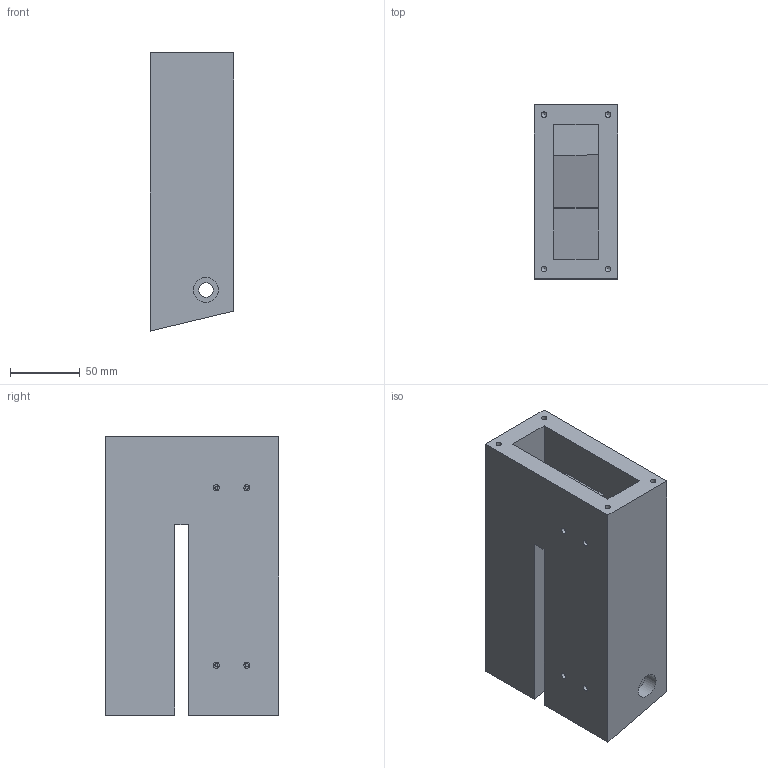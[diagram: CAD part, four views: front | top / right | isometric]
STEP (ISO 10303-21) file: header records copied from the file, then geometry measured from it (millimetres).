
FILE_DESCRIPTION(/* description */ ('STEP AP242','CAx-IF Rec.Pracs.---Representation and Presentation of Product Manufacturing Information (PMI)---4.0---2014-10-13','CAx-IF Rec.Pracs.---3D Tessellated Geometry---0.4---2014-09-14','2;1'),/* implementation_level */ '2;1');
FILE_NAME(/* name */ '6469da5b444c7e039afd37ff',/* time_stamp */ '2023-05-21T08:46:21Z',/* author */ (''),/* organization */ (''),/* preprocessor_version */ 'ST-DEVELOPER v19.4',/* originating_system */ ' ',/* authorisation */ ' ');
FILE_SCHEMA (('AP242_MANAGED_MODEL_BASED_3D_ENGINEERING_MIM_LF { 1 0 10303 442 1 1 4 }'));
Length unit declared in the file: metre
Products named in the file (1): Enclosure Base
Bounding box: 60 x 125 x 200 mm (x, y, z)
Volume: 1002662.4 mm3; surface area: 144310.6 mm2
Topology: 1 solids, 1 shells, 51 faces, 124 edges, 83 vertices
Faces by surface type: plane 30, cylinder 17, cone 4
Full cylindrical faces by diameter (mm): 2.2 x4, 4 x4, 4.4 x4, 10.5 x4, 18 x1
Entity records: 1380 total; most frequent: DIRECTION 232, CARTESIAN_POINT 224, ORIENTED_EDGE 188, FACE_BOUND 98, EDGE_CURVE 94, EDGE_LOOP 94, AXIS2_PLACEMENT_3D 86, VERTEX_POINT 78
